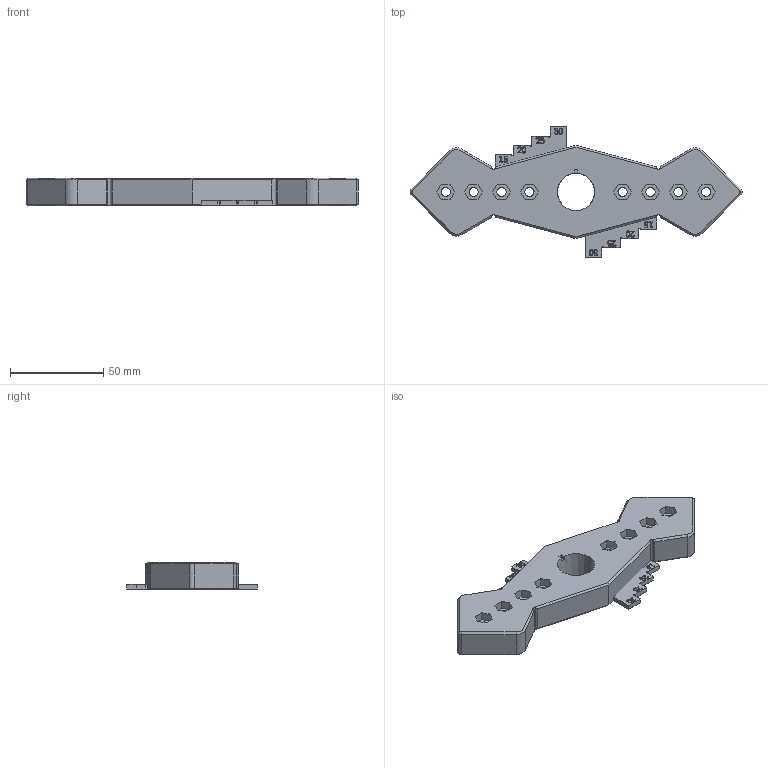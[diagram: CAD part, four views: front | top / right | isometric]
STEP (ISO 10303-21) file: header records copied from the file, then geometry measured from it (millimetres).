
FILE_DESCRIPTION (( 'STEP AP214' ), '1' );
FILE_NAME ('DrillGuide.STEP', '2022-11-14T20:41:49', ( '' ), ( '' ), 'SwSTEP 2.0', 'SolidWorks 2021', '' );
FILE_SCHEMA (( 'AUTOMOTIVE_DESIGN' ));
Length unit declared in the file: millimetre
Products named in the file (1): DrillGuide
Bounding box: 178.34 x 70 x 15 mm (x, y, z)
Volume: 85804.8 mm3; surface area: 22176.7 mm2
Topology: 1 solids, 1 shells, 512 faces, 1375 edges, 887 vertices
Faces by surface type: plane 250, bspline 170, cylinder 48, cone 44
Entity records: 22872 total; most frequent: CARTESIAN_POINT 11205, ORIENTED_EDGE 2738, DIRECTION 1812, EDGE_CURVE 1369, VERTEX_POINT 887, VECTOR 872, LINE 872, EDGE_LOOP 558
